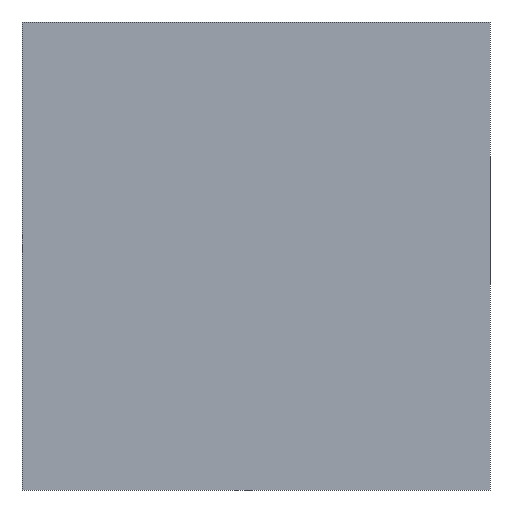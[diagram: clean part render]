
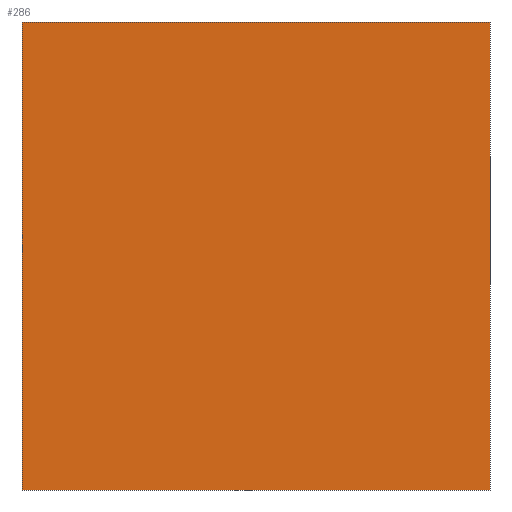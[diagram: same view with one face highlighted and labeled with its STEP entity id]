
A CAD part, front view. The second image highlights one B-rep face of the part: STEP entity #286.
In plain terms, the highlighted planar face has unit normal (0, -1, 0).
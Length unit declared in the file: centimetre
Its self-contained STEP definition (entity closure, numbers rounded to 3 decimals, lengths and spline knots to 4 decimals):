
#7 = CARTESIAN_POINT ( 'NONE',  ( 0., 0., 0. ) ) ;
#11 = VERTEX_POINT ( 'NONE', #7 ) ;
#29 = EDGE_CURVE ( 'NONE', #97, #49, #131, .T. ) ;
#38 = EDGE_CURVE ( 'NONE', #11, #49, #447, .T. ) ;
#49 = VERTEX_POINT ( 'NONE', #510 ) ;
#93 = CARTESIAN_POINT ( 'NONE',  ( 0., 0., 1000. ) ) ;
#97 = VERTEX_POINT ( 'NONE', #401 ) ;
#131 = LINE ( 'NONE', #295, #560 ) ;
#133 = EDGE_CURVE ( 'NONE', #596, #11, #190, .T. ) ;
#136 = CARTESIAN_POINT ( 'NONE',  ( 0., 0., 0. ) ) ;
#161 = ORIENTED_EDGE ( 'NONE', *, *, #29, .F. ) ;
#171 = PLANE ( 'NONE',  #573 ) ;
#172 = ORIENTED_EDGE ( 'NONE', *, *, #38, .T. ) ;
#175 = CARTESIAN_POINT ( 'NONE',  ( 0., 0., 1000. ) ) ;
#190 = LINE ( 'NONE', #613, #234 ) ;
#199 = VECTOR ( 'NONE', #459, 100. ) ;
#232 = ORIENTED_EDGE ( 'NONE', *, *, #565, .F. ) ;
#234 = VECTOR ( 'NONE', #343, 100. ) ;
#254 = DIRECTION ( 'NONE',  ( 1., 0., 0. ) ) ;
#286 = ADVANCED_FACE ( 'NONE', ( #649 ), #171, .F. ) ;
#295 = CARTESIAN_POINT ( 'NONE',  ( 1000., 0., 1000. ) ) ;
#302 = DIRECTION ( 'NONE',  ( 0., 0., -1. ) ) ;
#303 = CARTESIAN_POINT ( 'NONE',  ( 0., 0., 1000. ) ) ;
#314 = LINE ( 'NONE', #93, #199 ) ;
#321 = DIRECTION ( 'NONE',  ( 0., 1., 0. ) ) ;
#343 = DIRECTION ( 'NONE',  ( 0., 0., -1. ) ) ;
#372 = DIRECTION ( 'NONE',  ( 0., 0., 1. ) ) ;
#382 = EDGE_LOOP ( 'NONE', ( #172, #161, #232, #667 ) ) ;
#401 = CARTESIAN_POINT ( 'NONE',  ( 1000., 0., 1000. ) ) ;
#447 = LINE ( 'NONE', #136, #650 ) ;
#459 = DIRECTION ( 'NONE',  ( 1., 0., 0. ) ) ;
#510 = CARTESIAN_POINT ( 'NONE',  ( 1000., 0., 0. ) ) ;
#560 = VECTOR ( 'NONE', #302, 100. ) ;
#565 = EDGE_CURVE ( 'NONE', #596, #97, #314, .T. ) ;
#573 = AXIS2_PLACEMENT_3D ( 'NONE', #175, #321, #372 ) ;
#596 = VERTEX_POINT ( 'NONE', #303 ) ;
#613 = CARTESIAN_POINT ( 'NONE',  ( 0., 0., 1000. ) ) ;
#649 = FACE_OUTER_BOUND ( 'NONE', #382, .T. ) ;
#650 = VECTOR ( 'NONE', #254, 100. ) ;
#667 = ORIENTED_EDGE ( 'NONE', *, *, #133, .T. ) ;
